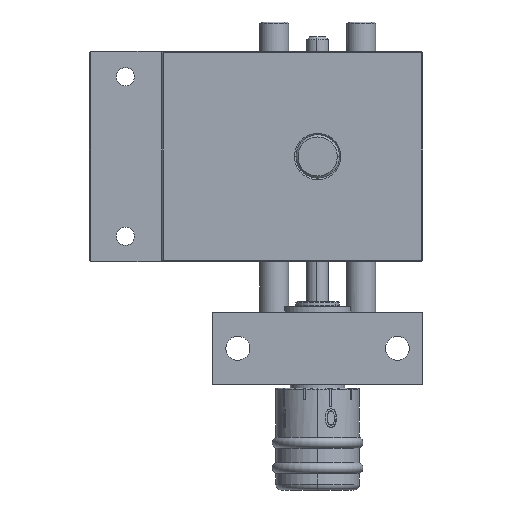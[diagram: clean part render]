
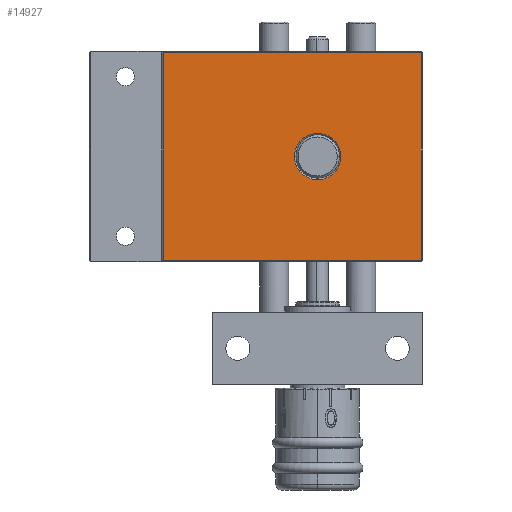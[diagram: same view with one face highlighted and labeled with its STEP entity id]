
A CAD part, front view. The second image highlights one B-rep face of the part: STEP entity #14927.
In plain terms, the highlighted planar face has unit normal (0, -1, 0).
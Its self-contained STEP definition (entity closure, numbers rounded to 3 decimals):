
#479 = VERTEX_POINT ( 'NONE', #3812 ) ;
#661 = CARTESIAN_POINT ( 'NONE',  ( -3.2, -4., 0. ) ) ;
#1312 = DIRECTION ( 'NONE',  ( 0., -1., 0. ) ) ;
#1319 = LINE ( 'NONE', #9214, #12030 ) ;
#1685 = CIRCLE ( 'NONE', #14711, 3.2 ) ;
#2185 = CARTESIAN_POINT ( 'NONE',  ( -21.3, -4., 14.3 ) ) ;
#2207 = DIRECTION ( 'NONE',  ( 1., 0., 0. ) ) ;
#2217 = DIRECTION ( 'NONE',  ( 0., 1., 0. ) ) ;
#2222 = CARTESIAN_POINT ( 'NONE',  ( 0., -4., 0. ) ) ;
#2246 = VERTEX_POINT ( 'NONE', #6486 ) ;
#2473 = CARTESIAN_POINT ( 'NONE',  ( -21.3, -4., -14.3 ) ) ;
#2513 = EDGE_CURVE ( 'NONE', #2246, #479, #4290, .T. ) ;
#3257 = DIRECTION ( 'NONE',  ( 0., 0., -1. ) ) ;
#3374 = CARTESIAN_POINT ( 'NONE',  ( -21.3, -4., -14.5 ) ) ;
#3622 = DIRECTION ( 'NONE',  ( 0., 0., 1. ) ) ;
#3812 = CARTESIAN_POINT ( 'NONE',  ( 14.3, -4., 14.3 ) ) ;
#3830 = CARTESIAN_POINT ( 'NONE',  ( 14.3, -4., 14.5 ) ) ;
#4036 = VECTOR ( 'NONE', #3622, 1000. ) ;
#4167 = VECTOR ( 'NONE', #3257, 1000. ) ;
#4186 = LINE ( 'NONE', #3374, #4167 ) ;
#4290 = LINE ( 'NONE', #3830, #4036 ) ;
#5241 = VECTOR ( 'NONE', #11449, 1000. ) ;
#6486 = CARTESIAN_POINT ( 'NONE',  ( 14.3, -4., -14.3 ) ) ;
#6585 = DIRECTION ( 'NONE',  ( 1., 0., 0. ) ) ;
#6600 = DIRECTION ( 'NONE',  ( 0., 1., 0. ) ) ;
#6651 = CARTESIAN_POINT ( 'NONE',  ( 0., -4., 0. ) ) ;
#7162 = EDGE_CURVE ( 'NONE', #7325, #15678, #9849, .T. ) ;
#7184 = VERTEX_POINT ( 'NONE', #2185 ) ;
#7325 = VERTEX_POINT ( 'NONE', #16721 ) ;
#8091 = PLANE ( 'NONE',  #9973 ) ;
#9214 = CARTESIAN_POINT ( 'NONE',  ( -21.5, -4., 14.3 ) ) ;
#9622 = DIRECTION ( 'NONE',  ( -1., 0., 0. ) ) ;
#9643 = EDGE_CURVE ( 'NONE', #479, #7184, #1319, .T. ) ;
#9849 = CIRCLE ( 'NONE', #12156, 3.2 ) ;
#9973 = AXIS2_PLACEMENT_3D ( 'NONE', #17201, #1312, #10730 ) ;
#10568 = ORIENTED_EDGE ( 'NONE', *, *, #10713, .T. ) ;
#10612 = ORIENTED_EDGE ( 'NONE', *, *, #9643, .T. ) ;
#10712 = ORIENTED_EDGE ( 'NONE', *, *, #2513, .T. ) ;
#10713 = EDGE_CURVE ( 'NONE', #7184, #15909, #4186, .T. ) ;
#10730 = DIRECTION ( 'NONE',  ( 1., 0., 0. ) ) ;
#10773 = ORIENTED_EDGE ( 'NONE', *, *, #11502, .T. ) ;
#10775 = ORIENTED_EDGE ( 'NONE', *, *, #11854, .T. ) ;
#10875 = ORIENTED_EDGE ( 'NONE', *, *, #7162, .T. ) ;
#11146 = LINE ( 'NONE', #11498, #5241 ) ;
#11449 = DIRECTION ( 'NONE',  ( 1., 0., 0. ) ) ;
#11465 = FACE_BOUND ( 'NONE', #13916, .T. ) ;
#11498 = CARTESIAN_POINT ( 'NONE',  ( 14.5, -4., -14.3 ) ) ;
#11502 = EDGE_CURVE ( 'NONE', #15909, #2246, #11146, .T. ) ;
#11538 = FACE_OUTER_BOUND ( 'NONE', #13751, .T. ) ;
#11854 = EDGE_CURVE ( 'NONE', #15678, #7325, #1685, .T. ) ;
#12030 = VECTOR ( 'NONE', #9622, 1000. ) ;
#12156 = AXIS2_PLACEMENT_3D ( 'NONE', #2222, #2217, #2207 ) ;
#13751 = EDGE_LOOP ( 'NONE', ( #10773, #10712, #10612, #10568 ) ) ;
#13916 = EDGE_LOOP ( 'NONE', ( #10875, #10775 ) ) ;
#14711 = AXIS2_PLACEMENT_3D ( 'NONE', #6651, #6600, #6585 ) ;
#14927 = ADVANCED_FACE ( 'NONE', ( #11465, #11538 ), #8091, .T. ) ;
#15678 = VERTEX_POINT ( 'NONE', #661 ) ;
#15909 = VERTEX_POINT ( 'NONE', #2473 ) ;
#16721 = CARTESIAN_POINT ( 'NONE',  ( 3.2, -4., 0. ) ) ;
#17201 = CARTESIAN_POINT ( 'NONE',  ( -31.5, -4., 14.5 ) ) ;
